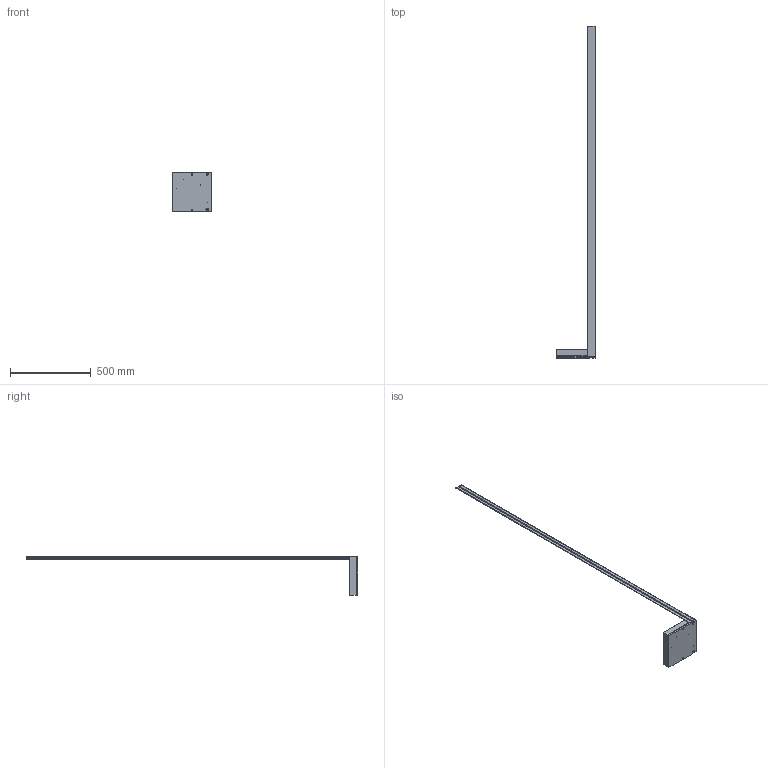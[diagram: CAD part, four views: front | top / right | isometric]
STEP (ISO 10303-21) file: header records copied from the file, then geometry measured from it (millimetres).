
FILE_DESCRIPTION(/* description */ ('Unknown'),/* implementation_level */ '2;1');
FILE_NAME(/* name */ 'F39 PIVOT C01-C02',/* time_stamp */ '2020-12-21T15:43:46+01:00',/* author */ ('Unknown'),/* organization */ ('Unknown'),/* preprocessor_version */ 'ST-DEVELOPER v16.7',/* originating_system */ 'Solid Edge',/* authorisation */ 'Unknown');
FILE_SCHEMA (('AUTOMOTIVE_DESIGN {1 0 10303 214 3 1 1}'));
Length unit declared in the file: millimetre
Products named in the file (11): ASSIEME PIANTANA PIVOT_R07; SCATOLA PIANTANA PIVOT_R07; ZAVORRA PIANTANA PIVOT_R07; MEANWELL RS-150; BARRA PIANTANA PIVOT_R07; TAPPO TESTA PIVOT_R07; socket head cap screw_iso_ISO 4762 M8 x 25 --- 25N; DIFFUSORE PIANTANA PIVOT_R07; BLOCCACAVO F M10; BC BOCC M10; VOLTAGE MASTER CONTROLLER V
Assembly tree (11 placements, depth 2):
  ASSIEME PIANTANA PIVOT_R07
    SCATOLA PIANTANA PIVOT_R07
    ZAVORRA PIANTANA PIVOT_R07
    MEANWELL RS-150
    BARRA PIANTANA PIVOT_R07
    TAPPO TESTA PIVOT_R07
    socket head cap screw_iso_ISO 4762 M8 x 25 --- 25N
    DIFFUSORE PIANTANA PIVOT_R07  x2
    BLOCCACAVO F M10
    BC BOCC M10
    VOLTAGE MASTER CONTROLLER V
Bounding box: 240 x 2053 x 240.5 mm (x, y, z)
Volume: 1928432.8 mm3; surface area: 1022541 mm2
Topology: 11 solids, 11 shells, 374 faces, 958 edges, 605 vertices
Faces by surface type: plane 188, cylinder 142, bspline 17, cone 13, torus 8, sphere 6
Full cylindrical faces by diameter (mm): 2.5 x8, 3.5 x2, 4 x2, 4.5 x4, 5.917 x1, 6.8 x1, 7.2 x2, 8 x1, 8.2 x1, 8.917 x1, 10 x3, 10.5 x1, 12 x1, 13 x1, 13.5 x1, 14 x1
Entity records: 10890 total; most frequent: CARTESIAN_POINT 2496, DIRECTION 1705, ORIENTED_EDGE 1610, EDGE_CURVE 805, AXIS2_PLACEMENT_3D 600, VERTEX_POINT 536, LINE 505, VECTOR 505
